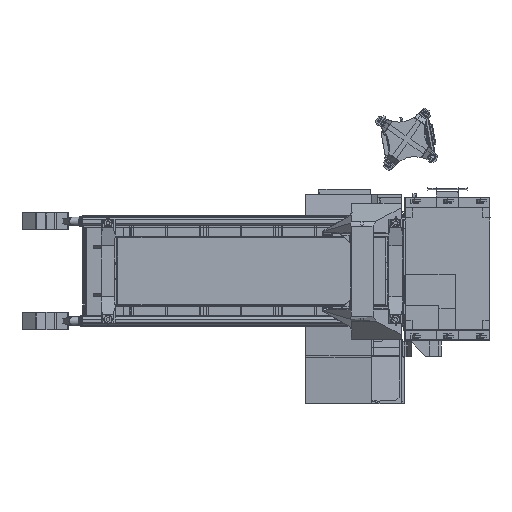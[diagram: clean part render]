
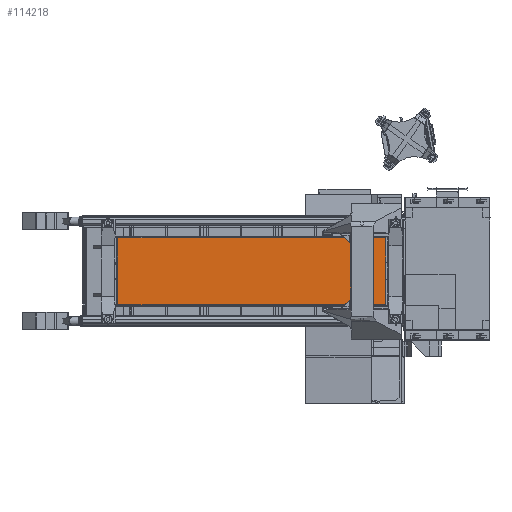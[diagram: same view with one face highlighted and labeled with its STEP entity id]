
A CAD part, front view. The second image highlights one B-rep face of the part: STEP entity #114218.
In plain terms, the highlighted planar face has unit normal (0, -1, 0).
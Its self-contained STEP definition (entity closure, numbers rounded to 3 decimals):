
#27206 = ORIENTED_EDGE ( 'NONE', *, *, #105141, .F. ) ;
#35682 = ORIENTED_EDGE ( 'NONE', *, *, #161533, .T. ) ;
#37928 = LINE ( 'NONE', #224679, #267756 ) ;
#37933 = DIRECTION ( 'NONE',  ( -1., 0., 0. ) ) ;
#46263 = CARTESIAN_POINT ( 'NONE',  ( 140.45, 14.75, -18.375 ) ) ;
#52929 = DIRECTION ( 'NONE',  ( 0., 0., -1. ) ) ;
#53318 = DIRECTION ( 'NONE',  ( 0., 0., 1. ) ) ;
#57505 = EDGE_CURVE ( 'NONE', #390144, #60997, #347498, .T. ) ;
#60997 = VERTEX_POINT ( 'NONE', #230350 ) ;
#105141 = EDGE_CURVE ( 'NONE', #203814, #390144, #37928, .T. ) ;
#114218 = ADVANCED_FACE ( 'NONE', ( #217618 ), #328229, .T. ) ;
#121098 = CARTESIAN_POINT ( 'NONE',  ( -6.55, 14.75, -19.25 ) ) ;
#155086 = LINE ( 'NONE', #121098, #346037 ) ;
#161533 = EDGE_CURVE ( 'NONE', #203814, #271799, #247452, .T. ) ;
#178152 = VECTOR ( 'NONE', #258605, 39.37 ) ;
#181332 = EDGE_CURVE ( 'NONE', #60997, #271799, #155086, .T. ) ;
#187469 = ORIENTED_EDGE ( 'NONE', *, *, #181332, .F. ) ;
#187723 = AXIS2_PLACEMENT_3D ( 'NONE', #359940, #260437, #427748 ) ;
#203814 = VERTEX_POINT ( 'NONE', #234645 ) ;
#205727 = ORIENTED_EDGE ( 'NONE', *, *, #57505, .F. ) ;
#217618 = FACE_OUTER_BOUND ( 'NONE', #299503, .T. ) ;
#224679 = CARTESIAN_POINT ( 'NONE',  ( 140.45, 14.75, 19.25 ) ) ;
#230350 = CARTESIAN_POINT ( 'NONE',  ( -6.55, 14.75, -18.375 ) ) ;
#234645 = CARTESIAN_POINT ( 'NONE',  ( 140.45, 14.75, 18.375 ) ) ;
#247452 = LINE ( 'NONE', #290203, #178152 ) ;
#258605 = DIRECTION ( 'NONE',  ( -1., 0., 0. ) ) ;
#260437 = DIRECTION ( 'NONE',  ( 0., -1., 0. ) ) ;
#267756 = VECTOR ( 'NONE', #52929, 39.37 ) ;
#271799 = VERTEX_POINT ( 'NONE', #308543 ) ;
#290203 = CARTESIAN_POINT ( 'NONE',  ( 121.45, 14.75, 18.375 ) ) ;
#299503 = EDGE_LOOP ( 'NONE', ( #35682, #187469, #205727, #27206 ) ) ;
#308543 = CARTESIAN_POINT ( 'NONE',  ( -6.55, 14.75, 18.375 ) ) ;
#328229 = PLANE ( 'NONE',  #187723 ) ;
#346037 = VECTOR ( 'NONE', #53318, 39.37 ) ;
#347498 = LINE ( 'NONE', #446982, #421519 ) ;
#359940 = CARTESIAN_POINT ( 'NONE',  ( 121.45, 14.75, 17.625 ) ) ;
#390144 = VERTEX_POINT ( 'NONE', #46263 ) ;
#421519 = VECTOR ( 'NONE', #37933, 39.37 ) ;
#427748 = DIRECTION ( 'NONE',  ( 1., 0., 0. ) ) ;
#446982 = CARTESIAN_POINT ( 'NONE',  ( 121.45, 14.75, -18.375 ) ) ;
